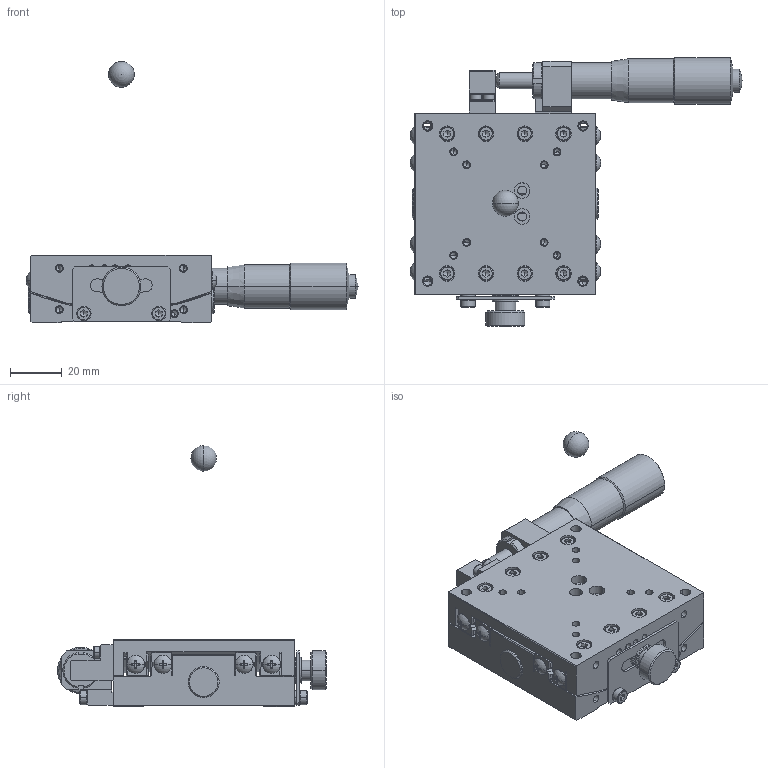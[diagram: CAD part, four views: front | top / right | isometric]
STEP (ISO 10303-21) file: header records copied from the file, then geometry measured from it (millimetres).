
FILE_DESCRIPTION (( 'STEP AP214' ), '1' );
FILE_NAME ('ST07A-S1T-R.STEP', '2007-01-19T01:34:17', ( ' ' ), ( ' ' ), 'SwSTEP 2.0', 'SolidWorks 2006052', '' );
FILE_SCHEMA (( 'AUTOMOTIVE_DESIGN' ));
Length unit declared in the file: millimetre
Products named in the file (5): 002590-1020(3D)-1; ST07A-S1T-R-Part-1; 002590-1011(3D)-1; MICROMETERHEAD(MHN4-25T)spindle-1; ST07A-S1T-R
Assembly tree (4 placements, depth 2):
  ST07A-S1T-R
    ST07A-S1T-R-Part-1
    002590-1020(3D)-1
    MICROMETERHEAD(MHN4-25T)spindle-1
    002590-1011(3D)-1
Bounding box: 128.39 x 104 x 101 mm (x, y, z)
Volume: 127511.8 mm3; surface area: 60919.8 mm2
Topology: 4 solids, 34 shells, 1789 faces, 4180 edges, 2432 vertices
Faces by surface type: plane 722, cylinder 596, cone 441, sphere 22, torus 8
Entity records: 53671 total; most frequent: CARTESIAN_POINT 12890, DIRECTION 8883, ORIENTED_EDGE 8106, EDGE_CURVE 4053, AXIS2_PLACEMENT_3D 3424, VERTEX_POINT 2429, VECTOR 2035, LINE 2035
